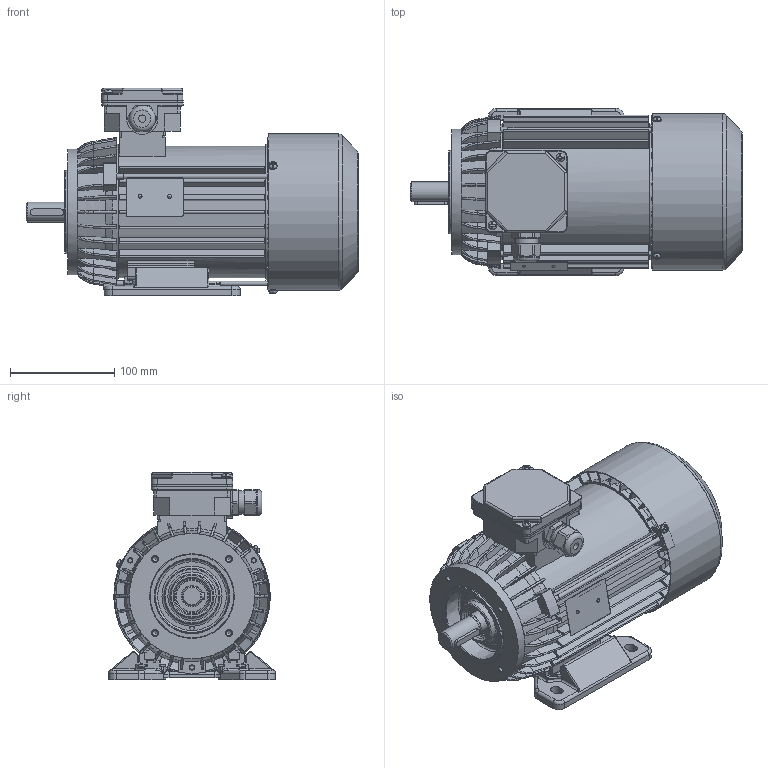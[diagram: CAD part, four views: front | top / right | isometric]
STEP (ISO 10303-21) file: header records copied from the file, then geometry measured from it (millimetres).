
FILE_DESCRIPTION(/* description */ ('Unknown'),/* implementation_level */ '2;1');
FILE_NAME(/* name */ '3SIEL80-8B2',/* time_stamp */ '2021-02-03T16:47:21+01:00',/* author */ ('Unknown'),/* organization */ ('Unknown'),/* preprocessor_version */ 'ST-DEVELOPER v16.7',/* originating_system */ 'Solid Edge',/* authorisation */ 'Unknown');
FILE_SCHEMA (('AUTOMOTIVE_DESIGN {1 0 10303 214 3 1 1}'));
Products named in the file (1): 3SIEL80-8B2
Bounding box: 317.78 x 160 x 198.5 mm (x, y, z)
Volume: 1079055.5 mm3; surface area: 605780.8 mm2
Topology: 4 solids, 4 shells, 2894 faces, 8246 edges, 5336 vertices
Faces by surface type: plane 1372, cylinder 870, bspline 274, torus 205, cone 153, sphere 20
Full cylindrical faces by diameter (mm): 2 x2, 2.4 x2, 3.7 x8, 4 x5, 4.4 x3, 4.5 x1, 4.8 x2, 5 x9, 5.1 x3, 5.5 x3, 6.5 x4, 7 x1, 8 x6, 18.598 x1, 18.998 x1, 19.298 x1, 19.498 x1, 19.898 x1, 19.948 x1, 19.998 x2, 20.4 x2, 22.3 x1, 25 x1, 25.497 x1, 25.597 x1, 25.997 x4, 28.799 x4, 30 x1, 34 x1, 38.198 x4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
Entity records: 120448 total; most frequent: CARTESIAN_POINT 29595, ORIENTED_EDGE 15670, DIRECTION 14168, EDGE_CURVE 7835, VERTEX_POINT 5174, AXIS2_PLACEMENT_3D 5163, LINE 3842, VECTOR 3842
